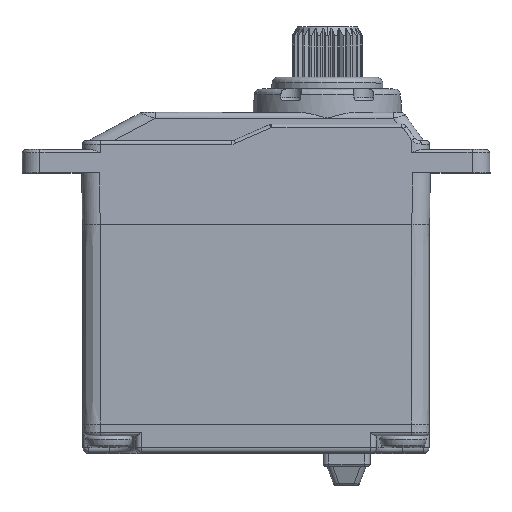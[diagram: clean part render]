
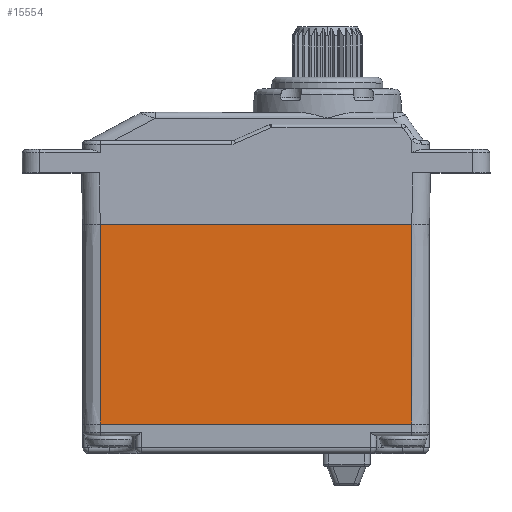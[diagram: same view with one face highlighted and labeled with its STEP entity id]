
A CAD part, top view. The second image highlights one B-rep face of the part: STEP entity #15554.
In plain terms, the highlighted planar face has unit normal (0, 0, 1).
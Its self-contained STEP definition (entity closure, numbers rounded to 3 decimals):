
#1039=DIRECTION('',(0.,-1.,0.));
#1040=VECTOR('',#1039,17.);
#1041=CARTESIAN_POINT('',(13.249,0.,7.));
#1042=LINE('',#1041,#1040);
#1112=DIRECTION('',(1.,0.,0.));
#1113=VECTOR('',#1112,26.499);
#1114=CARTESIAN_POINT('',(-13.25,-17.,7.));
#1115=LINE('',#1114,#1113);
#1116=DIRECTION('',(0.,-1.,0.));
#1117=VECTOR('',#1116,17.);
#1118=CARTESIAN_POINT('',(-13.249,0.,7.));
#1119=LINE('',#1118,#1117);
#1945=CARTESIAN_POINT('',(-13.249,0.,7.));
#2116=DIRECTION('',(1.,0.,0.));
#2117=VECTOR('',#2116,26.499);
#2118=CARTESIAN_POINT('',(-13.249,0.,7.));
#2119=LINE('',#2118,#2117);
#12705=VERTEX_POINT('',#1945);
#12706=CARTESIAN_POINT('',(13.249,0.,7.));
#12707=VERTEX_POINT('',#12706);
#14128=CARTESIAN_POINT('',(-13.25,-17.,7.));
#14129=CARTESIAN_POINT('',(13.25,-17.,7.));
#14130=VERTEX_POINT('',#14128);
#14131=VERTEX_POINT('',#14129);
#15541=CARTESIAN_POINT('',(-13.249,0.,7.));
#15542=DIRECTION('',(0.,0.,1.));
#15543=DIRECTION('',(1.,0.,0.));
#15544=AXIS2_PLACEMENT_3D('',#15541,#15542,#15543);
#15545=PLANE('',#15544);
#15546=ORIENTED_EDGE('',*,*,#15524,.F.);
#15548=ORIENTED_EDGE('',*,*,#15547,.F.);
#15550=ORIENTED_EDGE('',*,*,#15549,.T.);
#15551=ORIENTED_EDGE('',*,*,#15439,.T.);
#15552=EDGE_LOOP('',(#15546,#15548,#15550,#15551));
#15553=FACE_OUTER_BOUND('',#15552,.F.);
#15439=EDGE_CURVE('',#12707,#14131,#1042,.T.);
#15524=EDGE_CURVE('',#14130,#14131,#1115,.T.);
#15547=EDGE_CURVE('',#12705,#14130,#1119,.T.);
#15549=EDGE_CURVE('',#12705,#12707,#2119,.T.);
#15554=ADVANCED_FACE('',(#15553),#15545,.T.);
